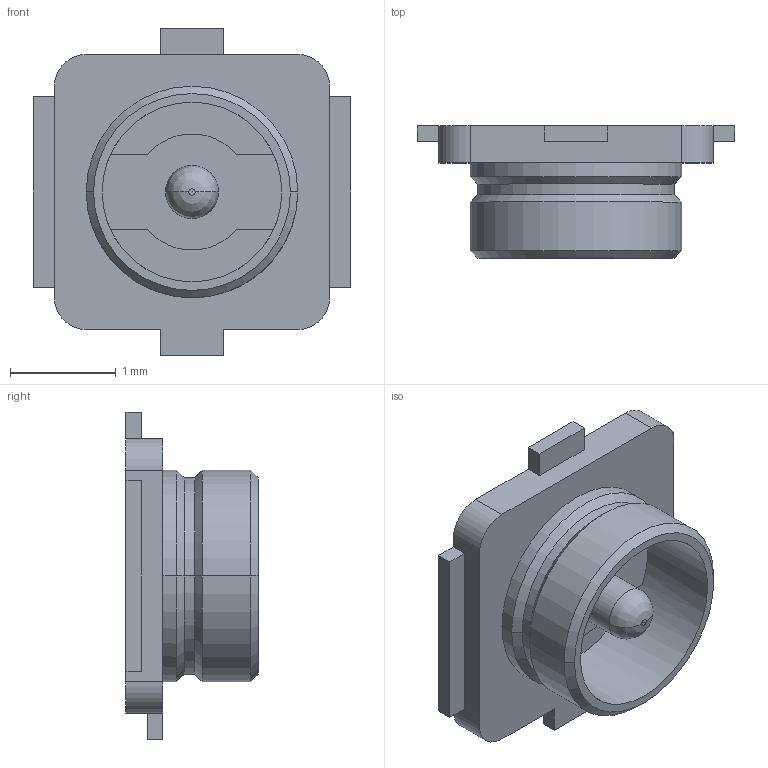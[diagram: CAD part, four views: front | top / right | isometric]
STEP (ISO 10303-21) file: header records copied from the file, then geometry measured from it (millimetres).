
FILE_DESCRIPTION(('STEP AP242'),'1');
FILE_NAME('u_fl-r-smt-1_10_.stp','2021-02-18T08:26:49',('TraceParts'),('TraceParts S.A.'),'Spatial InterOp 3D',' ',' ');
FILE_SCHEMA(('AP242_MANAGED_MODEL_BASED_3D_ENGINEERING_MIM_LF {1 0 10303 442 1 1 4}'));
Length unit declared in the file: millimetre
Products named in the file (1): u_fl-r-smt-1_10_
Bounding box: 3 x 1.25 x 3.1 mm (x, y, z)
Volume: 3.5 mm3; surface area: 30.9 mm2
Topology: 1 solids, 1 shells, 57 faces, 145 edges, 92 vertices
Faces by surface type: plane 31, cylinder 16, cone 8, bspline 2
Entity records: 2070 total; most frequent: CARTESIAN_POINT 349, DIRECTION 296, ORIENTED_EDGE 286, EDGE_CURVE 143, AXIS2_PLACEMENT_3D 99, LINE 98, VECTOR 98, VERTEX_POINT 92
